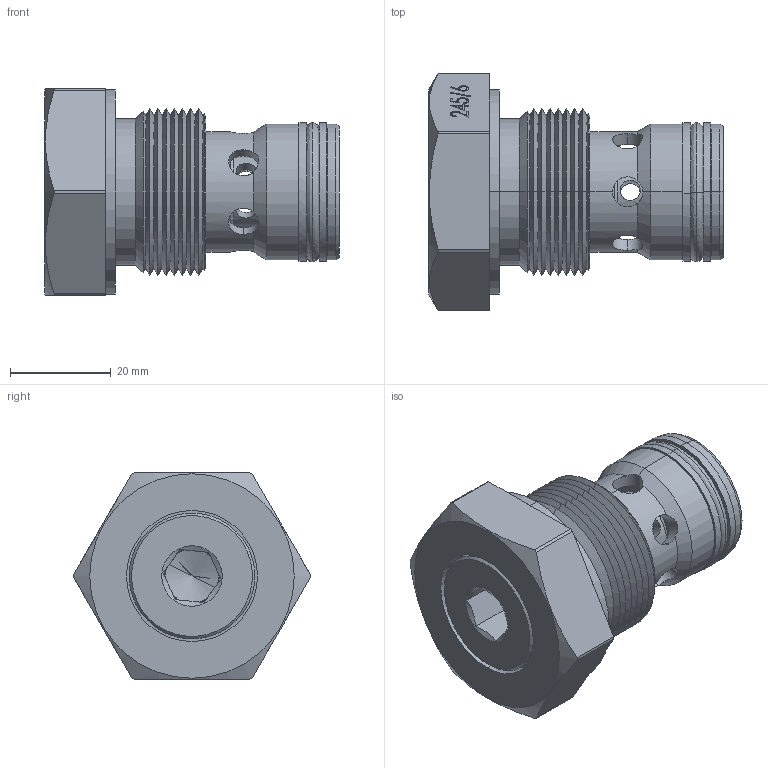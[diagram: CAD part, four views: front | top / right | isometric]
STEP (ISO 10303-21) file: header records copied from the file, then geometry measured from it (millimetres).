
FILE_DESCRIPTION (( 'STEP AP214' ), '1' );
FILE_NAME ('245-6-12.STEP', '2015-05-15T15:08:14', ( '' ), ( '' ), 'SwSTEP 2.0', 'SolidWorks 2014', '' );
FILE_SCHEMA (( 'AUTOMOTIVE_DESIGN' ));
Length unit declared in the file: millimetre
Products named in the file (1): 245-6-12
Bounding box: 58.5 x 47 x 41 mm (x, y, z)
Surface area: 13932.1 mm2 (no closed solid volume)
Topology: 0 solids, 9 shells, 248 faces, 662 edges, 423 vertices
Faces by surface type: plane 101, cone 58, cylinder 56, bspline 33
Entity records: 13395 total; most frequent: CARTESIAN_POINT 4803, ORIENTED_EDGE 1234, DIRECTION 1094, EDGE_CURVE 660, VERTEX_POINT 423, VECTOR 370, LINE 370, AXIS2_PLACEMENT_3D 362
